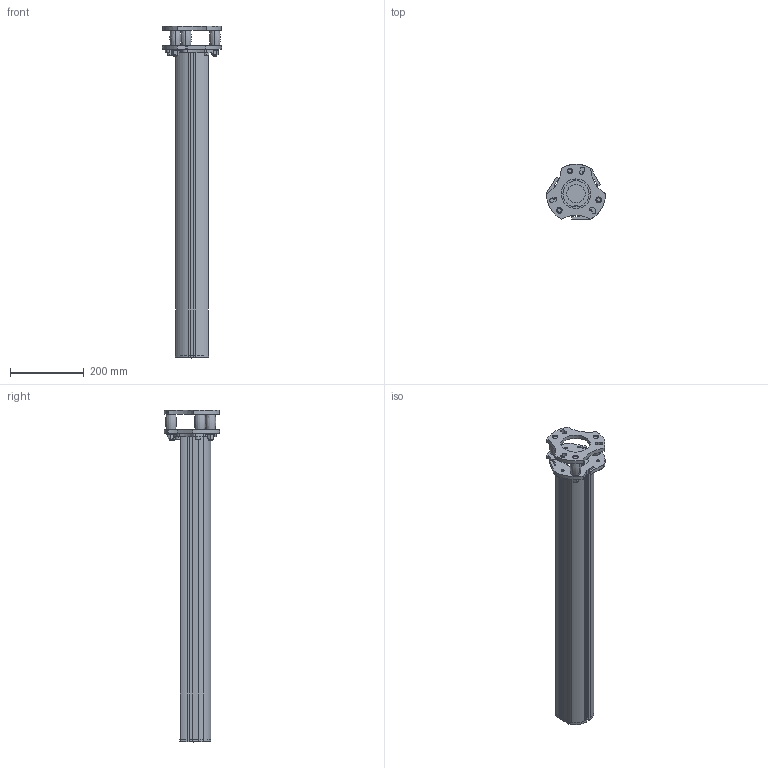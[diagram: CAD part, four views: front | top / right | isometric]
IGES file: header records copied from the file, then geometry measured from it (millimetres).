
Global section: file name: No Iges File Name specified; native system: Autodesk Inventor 2009; preprocessor: AutoDesk Inventor Iges Exporter R2009; author: seisen; date: 20120711.102642; units: millimetre
Bounding box: 160 x 150.44 x 899.92 mm (x, y, z)
Volume: 1354198.3 mm3; surface area: 723862.9 mm2
Topology: 22 solids, 23 shells, 551 faces, 1440 edges, 949 vertices
Faces by surface type: plane 202, revolution 124, bspline 99, cylinder 88, cone 32, torus 6
